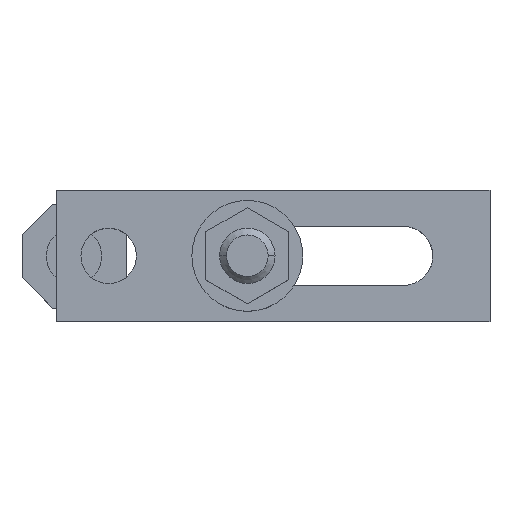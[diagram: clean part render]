
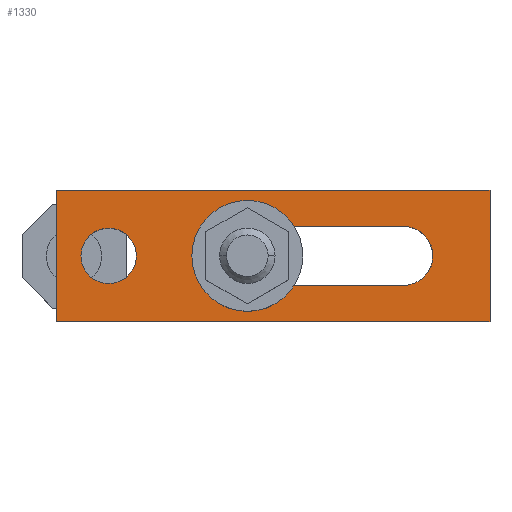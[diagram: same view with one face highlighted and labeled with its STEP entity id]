
A CAD part, top view. The second image highlights one B-rep face of the part: STEP entity #1330.
In plain terms, the highlighted planar face has unit normal (0, 0, 1).
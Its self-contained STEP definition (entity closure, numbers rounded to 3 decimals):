
#9 = EDGE_LOOP ( 'NONE', ( #2260, #1337, #2415, #37 ) ) ;
#29 = CARTESIAN_POINT ( 'NONE',  ( 0., -8.5, 25. ) ) ;
#37 = ORIENTED_EDGE ( 'NONE', *, *, #3059, .F. ) ;
#51 = VERTEX_POINT ( 'NONE', #622 ) ;
#65 = EDGE_CURVE ( 'NONE', #1840, #51, #987, .T. ) ;
#340 = VECTOR ( 'NONE', #996, 1000. ) ;
#435 = DIRECTION ( 'NONE',  ( 0., -1., 0. ) ) ;
#514 = VERTEX_POINT ( 'NONE', #1907 ) ;
#545 = CARTESIAN_POINT ( 'NONE',  ( 25., 19., 25. ) ) ;
#572 = CARTESIAN_POINT ( 'NONE',  ( -85., 0., 25. ) ) ;
#615 = PLANE ( 'NONE',  #2652 ) ;
#622 = CARTESIAN_POINT ( 'NONE',  ( -100., -19., 25. ) ) ;
#642 = VERTEX_POINT ( 'NONE', #1777 ) ;
#719 = LINE ( 'NONE', #3471, #340 ) ;
#785 = ORIENTED_EDGE ( 'NONE', *, *, #974, .F. ) ;
#798 = EDGE_CURVE ( 'NONE', #514, #3362, #846, .T. ) ;
#837 = DIRECTION ( 'NONE',  ( 1., 0., 0. ) ) ;
#846 = LINE ( 'NONE', #2238, #1921 ) ;
#850 = EDGE_LOOP ( 'NONE', ( #1059, #2639, #2862, #3158 ) ) ;
#867 = VERTEX_POINT ( 'NONE', #2211 ) ;
#878 = DIRECTION ( 'NONE',  ( 1., 0., 0. ) ) ;
#959 = VECTOR ( 'NONE', #435, 1000. ) ;
#974 = EDGE_CURVE ( 'NONE', #867, #2057, #1025, .T. ) ;
#986 = DIRECTION ( 'NONE',  ( 0., 0., 1. ) ) ;
#987 = LINE ( 'NONE', #2251, #959 ) ;
#996 = DIRECTION ( 'NONE',  ( -1., 0., 0. ) ) ;
#1017 = EDGE_CURVE ( 'NONE', #642, #2199, #2135, .T. ) ;
#1025 = CIRCLE ( 'NONE', #1866, 8. ) ;
#1027 = CIRCLE ( 'NONE', #3289, 8.5 ) ;
#1059 = ORIENTED_EDGE ( 'NONE', *, *, #1352, .F. ) ;
#1097 = VERTEX_POINT ( 'NONE', #1160 ) ;
#1160 = CARTESIAN_POINT ( 'NONE',  ( 0., -8.5, 25. ) ) ;
#1233 = LINE ( 'NONE', #3138, #1869 ) ;
#1320 = DIRECTION ( 'NONE',  ( 1., 0., 0. ) ) ;
#1330 = ADVANCED_FACE ( 'NONE', ( #1394, #2220, #1632 ), #615, .T. ) ;
#1337 = ORIENTED_EDGE ( 'NONE', *, *, #3148, .T. ) ;
#1352 = EDGE_CURVE ( 'NONE', #514, #1623, #2586, .T. ) ;
#1394 = FACE_BOUND ( 'NONE', #850, .T. ) ;
#1422 = CARTESIAN_POINT ( 'NONE',  ( -45., 0., 25. ) ) ;
#1424 = DIRECTION ( 'NONE',  ( 1., 0., 0. ) ) ;
#1484 = CARTESIAN_POINT ( 'NONE',  ( -77., 0., 25. ) ) ;
#1571 = CARTESIAN_POINT ( 'NONE',  ( -85., 0., 25. ) ) ;
#1623 = VERTEX_POINT ( 'NONE', #3354 ) ;
#1632 = FACE_BOUND ( 'NONE', #1664, .T. ) ;
#1637 = CARTESIAN_POINT ( 'NONE',  ( 25., -19., 25. ) ) ;
#1664 = EDGE_LOOP ( 'NONE', ( #785, #2860 ) ) ;
#1699 = DIRECTION ( 'NONE',  ( 1., 0., 0. ) ) ;
#1777 = CARTESIAN_POINT ( 'NONE',  ( 25., 19., 25. ) ) ;
#1840 = VERTEX_POINT ( 'NONE', #2477 ) ;
#1866 = AXIS2_PLACEMENT_3D ( 'NONE', #572, #986, #2844 ) ;
#1869 = VECTOR ( 'NONE', #2301, 1000. ) ;
#1907 = CARTESIAN_POINT ( 'NONE',  ( -45., 8.5, 25. ) ) ;
#1921 = VECTOR ( 'NONE', #878, 1000. ) ;
#1957 = CARTESIAN_POINT ( 'NONE',  ( 0., 0., 25. ) ) ;
#2057 = VERTEX_POINT ( 'NONE', #1484 ) ;
#2135 = LINE ( 'NONE', #3460, #2536 ) ;
#2153 = AXIS2_PLACEMENT_3D ( 'NONE', #1422, #2469, #837 ) ;
#2199 = VERTEX_POINT ( 'NONE', #1637 ) ;
#2202 = DIRECTION ( 'NONE',  ( 0., 0., 1. ) ) ;
#2211 = CARTESIAN_POINT ( 'NONE',  ( -93., 0., 25. ) ) ;
#2220 = FACE_OUTER_BOUND ( 'NONE', #9, .T. ) ;
#2225 = EDGE_CURVE ( 'NONE', #2057, #867, #2785, .T. ) ;
#2238 = CARTESIAN_POINT ( 'NONE',  ( -40., 8.5, 25. ) ) ;
#2251 = CARTESIAN_POINT ( 'NONE',  ( -100., 19., 25. ) ) ;
#2260 = ORIENTED_EDGE ( 'NONE', *, *, #1017, .F. ) ;
#2301 = DIRECTION ( 'NONE',  ( -1., 0., 0. ) ) ;
#2415 = ORIENTED_EDGE ( 'NONE', *, *, #65, .T. ) ;
#2465 = CARTESIAN_POINT ( 'NONE',  ( 0., 8.5, 25. ) ) ;
#2469 = DIRECTION ( 'NONE',  ( 0., 0., 1. ) ) ;
#2477 = CARTESIAN_POINT ( 'NONE',  ( -100., 19., 25. ) ) ;
#2502 = AXIS2_PLACEMENT_3D ( 'NONE', #1571, #2605, #1320 ) ;
#2536 = VECTOR ( 'NONE', #2618, 1000. ) ;
#2586 = CIRCLE ( 'NONE', #2153, 8.5 ) ;
#2605 = DIRECTION ( 'NONE',  ( 0., 0., 1. ) ) ;
#2618 = DIRECTION ( 'NONE',  ( 0., -1., 0. ) ) ;
#2639 = ORIENTED_EDGE ( 'NONE', *, *, #798, .T. ) ;
#2652 = AXIS2_PLACEMENT_3D ( 'NONE', #545, #2713, #1699 ) ;
#2713 = DIRECTION ( 'NONE',  ( 0., 0., 1. ) ) ;
#2770 = VECTOR ( 'NONE', #3286, 1000. ) ;
#2785 = CIRCLE ( 'NONE', #2502, 8. ) ;
#2844 = DIRECTION ( 'NONE',  ( 1., 0., 0. ) ) ;
#2860 = ORIENTED_EDGE ( 'NONE', *, *, #2225, .F. ) ;
#2862 = ORIENTED_EDGE ( 'NONE', *, *, #2874, .F. ) ;
#2874 = EDGE_CURVE ( 'NONE', #1097, #3362, #1027, .T. ) ;
#2942 = EDGE_CURVE ( 'NONE', #1097, #1623, #3325, .T. ) ;
#3059 = EDGE_CURVE ( 'NONE', #2199, #51, #1233, .T. ) ;
#3138 = CARTESIAN_POINT ( 'NONE',  ( 25., -19., 25. ) ) ;
#3148 = EDGE_CURVE ( 'NONE', #642, #1840, #719, .T. ) ;
#3158 = ORIENTED_EDGE ( 'NONE', *, *, #2942, .T. ) ;
#3286 = DIRECTION ( 'NONE',  ( -1., 0., 0. ) ) ;
#3289 = AXIS2_PLACEMENT_3D ( 'NONE', #1957, #2202, #1424 ) ;
#3325 = LINE ( 'NONE', #29, #2770 ) ;
#3354 = CARTESIAN_POINT ( 'NONE',  ( -45., -8.5, 25. ) ) ;
#3362 = VERTEX_POINT ( 'NONE', #2465 ) ;
#3460 = CARTESIAN_POINT ( 'NONE',  ( 25., 19., 25. ) ) ;
#3471 = CARTESIAN_POINT ( 'NONE',  ( 25., 19., 25. ) ) ;
